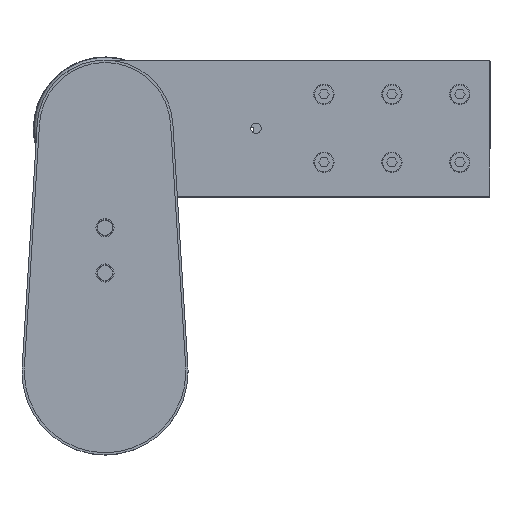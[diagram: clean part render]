
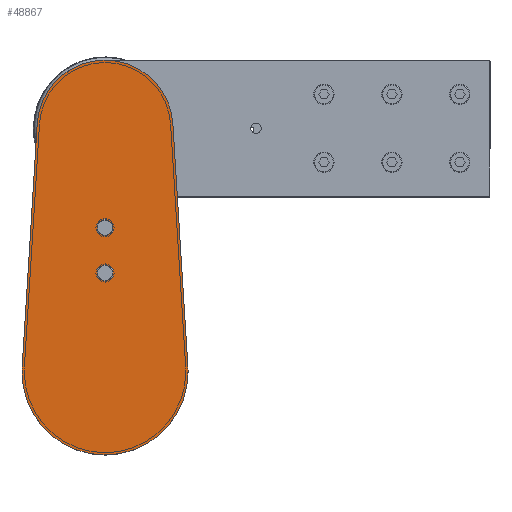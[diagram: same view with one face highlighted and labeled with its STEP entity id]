
A CAD part, top view. The second image highlights one B-rep face of the part: STEP entity #48867.
In plain terms, the highlighted planar face has unit normal (0, 0, 1) as drawn and (0, 0, -1) by its records, which use the part's own axes.
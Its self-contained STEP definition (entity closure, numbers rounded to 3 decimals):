
#346 = CARTESIAN_POINT ( 'NONE',  ( 0., 65.5, 0. ) ) ;
#347 = DIRECTION ( 'NONE',  ( 0., 0., -1. ) ) ;
#349 = DIRECTION ( 'NONE',  ( 1., 0., 0. ) ) ;
#371 = CARTESIAN_POINT ( 'NONE',  ( 0., 95.5, 0. ) ) ;
#373 = DIRECTION ( 'NONE',  ( 0., 0., -1. ) ) ;
#375 = DIRECTION ( 'NONE',  ( 1., 0., 0. ) ) ;
#4510 = FACE_BOUND ( 'NONE', #18543, .T. ) ;
#4513 = DIRECTION ( 'NONE',  ( 0., 0., 1. ) ) ;
#4516 = CARTESIAN_POINT ( 'NONE',  ( 0., 161.5, 0. ) ) ;
#4517 = FACE_BOUND ( 'NONE', #18532, .T. ) ;
#4519 = FACE_OUTER_BOUND ( 'NONE', #18542, .T. ) ;
#4520 = PLANE ( 'NONE',  #39851 ) ;
#4522 = DIRECTION ( 'NONE',  ( 1., 0., 0. ) ) ;
#9696 = CIRCLE ( 'NONE', #9704, 3.5 ) ;
#9702 = CIRCLE ( 'NONE', #9706, 3.5 ) ;
#9703 = VECTOR ( 'NONE', #11427, 1000. ) ;
#9704 = AXIS2_PLACEMENT_3D ( 'NONE', #11418, #11419, #11420 ) ;
#9706 = AXIS2_PLACEMENT_3D ( 'NONE', #11422, #11423, #11424 ) ;
#9707 = CIRCLE ( 'NONE', #9710, 55. ) ;
#9710 = AXIS2_PLACEMENT_3D ( 'NONE', #11430, #11431, #11432 ) ;
#9714 = VECTOR ( 'NONE', #11444, 1000. ) ;
#9719 = CIRCLE ( 'NONE', #9721, 45. ) ;
#9721 = AXIS2_PLACEMENT_3D ( 'NONE', #11452, #11453, #11454 ) ;
#9734 = CIRCLE ( 'NONE', #9737, 55. ) ;
#9737 = AXIS2_PLACEMENT_3D ( 'NONE', #11483, #11484, #11485 ) ;
#9741 = CIRCLE ( 'NONE', #9743, 55. ) ;
#9743 = AXIS2_PLACEMENT_3D ( 'NONE', #11495, #11496, #11497 ) ;
#9761 = CIRCLE ( 'NONE', #9763, 3.5 ) ;
#9763 = AXIS2_PLACEMENT_3D ( 'NONE', #346, #347, #349 ) ;
#9767 = CIRCLE ( 'NONE', #9769, 3.5 ) ;
#9769 = AXIS2_PLACEMENT_3D ( 'NONE', #371, #373, #375 ) ;
#10424 = VERTEX_POINT ( 'NONE', #32481 ) ;
#10426 = VERTEX_POINT ( 'NONE', #32482 ) ;
#10431 = VERTEX_POINT ( 'NONE', #32485 ) ;
#10433 = VERTEX_POINT ( 'NONE', #32486 ) ;
#10460 = VERTEX_POINT ( 'NONE', #32501 ) ;
#10462 = VERTEX_POINT ( 'NONE', #32502 ) ;
#10466 = VERTEX_POINT ( 'NONE', #32504 ) ;
#10467 = VERTEX_POINT ( 'NONE', #32505 ) ;
#10469 = VERTEX_POINT ( 'NONE', #32506 ) ;
#10471 = VERTEX_POINT ( 'NONE', #32507 ) ;
#11418 = CARTESIAN_POINT ( 'NONE',  ( 0., 65.5, 0. ) ) ;
#11419 = DIRECTION ( 'NONE',  ( 0., 0., -1. ) ) ;
#11420 = DIRECTION ( 'NONE',  ( 1., 0., 0. ) ) ;
#11421 = LINE ( 'NONE', #11426, #9703 ) ;
#11422 = CARTESIAN_POINT ( 'NONE',  ( 0., 95.5, 0. ) ) ;
#11423 = DIRECTION ( 'NONE',  ( 0., 0., -1. ) ) ;
#11424 = DIRECTION ( 'NONE',  ( 1., 0., 0. ) ) ;
#11426 = CARTESIAN_POINT ( 'NONE',  ( 44.914, 164.286, 0. ) ) ;
#11427 = DIRECTION ( 'NONE',  ( -0.062, 0.998, 0. ) ) ;
#11430 = CARTESIAN_POINT ( 'NONE',  ( 0., 0., 0. ) ) ;
#11431 = DIRECTION ( 'NONE',  ( 0., 0., 1. ) ) ;
#11432 = DIRECTION ( 'NONE',  ( 1., 0., 0. ) ) ;
#11441 = LINE ( 'NONE', #11443, #9714 ) ;
#11443 = CARTESIAN_POINT ( 'NONE',  ( -44.914, 164.286, 0. ) ) ;
#11444 = DIRECTION ( 'NONE',  ( -0.062, -0.998, 0. ) ) ;
#11452 = CARTESIAN_POINT ( 'NONE',  ( 0., 161.5, 0. ) ) ;
#11453 = DIRECTION ( 'NONE',  ( 0., 0., 1. ) ) ;
#11454 = DIRECTION ( 'NONE',  ( 1., 0., 0. ) ) ;
#11483 = CARTESIAN_POINT ( 'NONE',  ( 0., 0., 0. ) ) ;
#11484 = DIRECTION ( 'NONE',  ( 0., 0., 1. ) ) ;
#11485 = DIRECTION ( 'NONE',  ( 1., 0., 0. ) ) ;
#11495 = CARTESIAN_POINT ( 'NONE',  ( 0., 0., 0. ) ) ;
#11496 = DIRECTION ( 'NONE',  ( 0., 0., 1. ) ) ;
#11497 = DIRECTION ( 'NONE',  ( 1., 0., 0. ) ) ;
#18532 = EDGE_LOOP ( 'NONE', ( #49760, #49761 ) ) ;
#18542 = EDGE_LOOP ( 'NONE', ( #49764, #49765, #49766, #49767, #49768, #49769 ) ) ;
#18543 = EDGE_LOOP ( 'NONE', ( #49762, #49763 ) ) ;
#32481 = CARTESIAN_POINT ( 'NONE',  ( 3.5, 95.5, 0. ) ) ;
#32482 = CARTESIAN_POINT ( 'NONE',  ( -3.5, 95.5, 0. ) ) ;
#32485 = CARTESIAN_POINT ( 'NONE',  ( 3.5, 65.5, 0. ) ) ;
#32486 = CARTESIAN_POINT ( 'NONE',  ( -3.5, 65.5, 0. ) ) ;
#32501 = CARTESIAN_POINT ( 'NONE',  ( 55., 0., 0. ) ) ;
#32502 = CARTESIAN_POINT ( 'NONE',  ( 54.894, 3.406, 0. ) ) ;
#32504 = CARTESIAN_POINT ( 'NONE',  ( -55., 0., 0. ) ) ;
#32505 = CARTESIAN_POINT ( 'NONE',  ( -44.914, 164.286, 0. ) ) ;
#32506 = CARTESIAN_POINT ( 'NONE',  ( 44.914, 164.286, 0. ) ) ;
#32507 = CARTESIAN_POINT ( 'NONE',  ( -54.894, 3.406, 0. ) ) ;
#39851 = AXIS2_PLACEMENT_3D ( 'NONE', #4516, #4513, #4522 ) ;
#48867 = ADVANCED_FACE ( 'NONE', ( #4517, #4510, #4519 ), #4520, .F. ) ;
#49760 = ORIENTED_EDGE ( 'NONE', *, *, #54239, .F. ) ;
#49761 = ORIENTED_EDGE ( 'NONE', *, *, #54198, .F. ) ;
#49762 = ORIENTED_EDGE ( 'NONE', *, *, #54235, .F. ) ;
#49763 = ORIENTED_EDGE ( 'NONE', *, *, #54197, .F. ) ;
#49764 = ORIENTED_EDGE ( 'NONE', *, *, #54209, .F. ) ;
#49765 = ORIENTED_EDGE ( 'NONE', *, *, #54200, .F. ) ;
#49766 = ORIENTED_EDGE ( 'NONE', *, *, #54222, .F. ) ;
#49767 = ORIENTED_EDGE ( 'NONE', *, *, #54218, .F. ) ;
#49768 = ORIENTED_EDGE ( 'NONE', *, *, #54201, .F. ) ;
#49769 = ORIENTED_EDGE ( 'NONE', *, *, #54205, .F. ) ;
#54197 = EDGE_CURVE ( 'NONE', #10433, #10431, #9696, .T. ) ;
#54198 = EDGE_CURVE ( 'NONE', #10426, #10424, #9702, .T. ) ;
#54200 = EDGE_CURVE ( 'NONE', #10462, #10469, #11421, .T. ) ;
#54201 = EDGE_CURVE ( 'NONE', #10471, #10466, #9707, .T. ) ;
#54205 = EDGE_CURVE ( 'NONE', #10467, #10471, #11441, .T. ) ;
#54209 = EDGE_CURVE ( 'NONE', #10469, #10467, #9719, .T. ) ;
#54218 = EDGE_CURVE ( 'NONE', #10466, #10460, #9734, .T. ) ;
#54222 = EDGE_CURVE ( 'NONE', #10460, #10462, #9741, .T. ) ;
#54235 = EDGE_CURVE ( 'NONE', #10431, #10433, #9761, .T. ) ;
#54239 = EDGE_CURVE ( 'NONE', #10424, #10426, #9767, .T. ) ;
